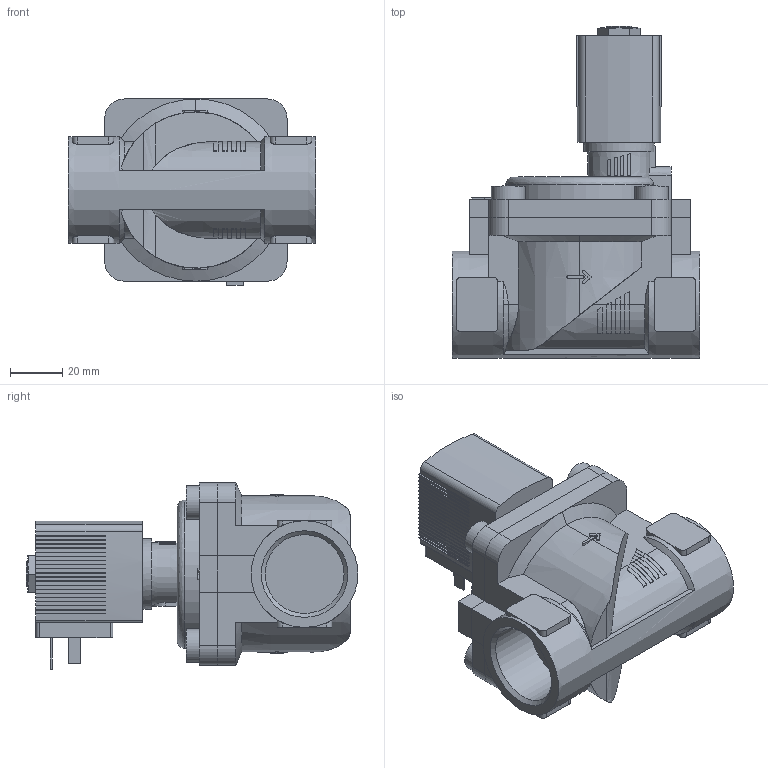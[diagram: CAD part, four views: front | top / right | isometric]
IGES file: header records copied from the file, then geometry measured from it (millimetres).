
Start section: Data from Parasolid IGES Translator 26.0.171, Copyright(c) 2006 Siemens PLM Software. All Rights Reserved.
Global section: file name: 6281-304596-2_2-Way_Solenoid_Valve__Servo-assisted__General_Purpose.igs; native system: By Siemens PLM Incorporated; preprocessor: XPlus GENERIC/IGES 26.0.171; author: Noname; organization: Noname; date: 20240826.011325; units: millimetre
Bounding box: 95 x 127.5 x 71.5 mm (x, y, z)
Surface area: 55009.7 mm2 (no closed solid volume)
Topology: 0 solids, 0 shells, 559 faces, 3144 edges, 3136 vertices
Faces by surface type: extrusion 439, revolution 120
